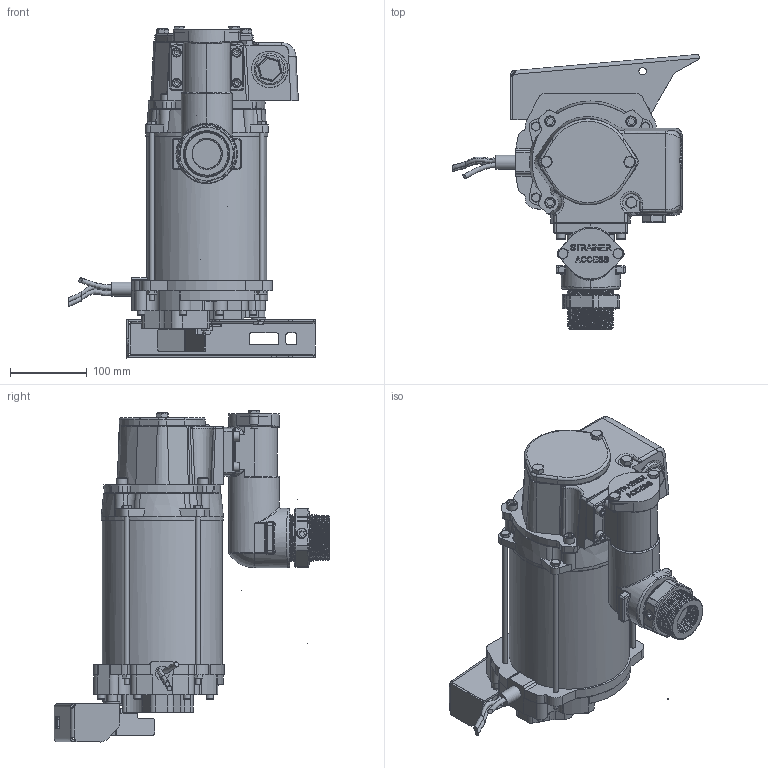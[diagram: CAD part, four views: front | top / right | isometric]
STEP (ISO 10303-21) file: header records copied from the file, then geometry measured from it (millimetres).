
FILE_DESCRIPTION(/* description */ (''),/* implementation_level */ '2;1');
FILE_NAME(/* name */ 'C:\Vault Projects\GPI Eng\New Projects\DHarris\Website model updates\STEP\PRO35-115PO.stp',/* time_stamp */ '2022-07-20T10:29:01-05:00',/* author */ ('gdanhar'),/* organization */ (''),/* preprocessor_version */ 'ST-DEVELOPER v18.1',/* originating_system */ 'Autodesk Inventor 2022',/* authorisation */ '');
FILE_SCHEMA (('AUTOMOTIVE_DESIGN { 1 0 10303 214 3 1 1 }'));
Length unit declared in the file: inch
Products named in the file (1): PRO35-115PO
Bounding box: 319.84 x 357.91 x 431.22 mm (x, y, z)
Volume: 7932657.5 mm3; surface area: 529571.2 mm2
Topology: 6 solids, 7 shells, 2015 faces, 5307 edges, 3355 vertices
Faces by surface type: plane 782, bspline 475, cylinder 397, cone 240, torus 82, sphere 39
Full cylindrical faces by diameter (mm): 0.001 x1, 0.136 x3, 6.35 x8, 7.137 x1, 7.938 x2, 9.525 x13, 11.125 x4, 11.906 x4, 12.56 x2, 14.122 x3, 15.875 x1, 18.288 x1, 19.177 x2, 22.225 x1, 29.362 x4, 30.34 x1, 31.191 x4, 33.337 x4, 33.998 x1, 37.694 x3, 40.64 x1, 47.625 x1, 114.3 x1, 155.956 x1, 158.75 x1
Entity records: 94797 total; most frequent: CARTESIAN_POINT 46951, ORIENTED_EDGE 10548, DIRECTION 7966, EDGE_CURVE 5274, VERTEX_POINT 3356, AXIS2_PLACEMENT_3D 2808, LINE 2350, VECTOR 2350
